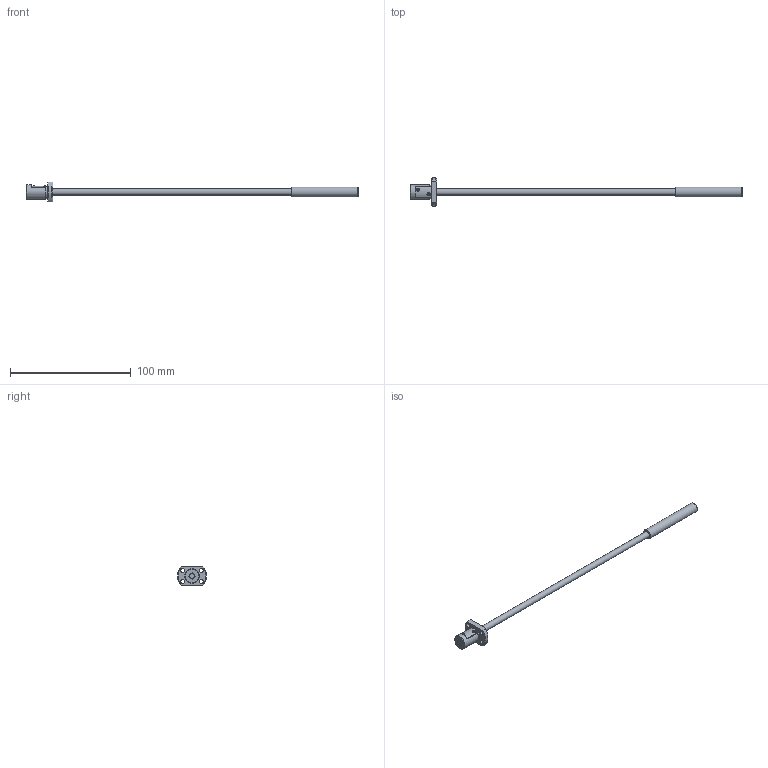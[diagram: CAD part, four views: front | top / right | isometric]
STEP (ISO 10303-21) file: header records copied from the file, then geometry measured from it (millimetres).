
FILE_DESCRIPTION( ( 'STEP AP203' ), '1' );
FILE_NAME( 'e:/temp/worker_94/temp/exporttempdir_5292_1289_nfZ3Y/format_0/SRT0504-216R275C7A0X(0None).stp', '2021-10-19T05:25:22', ( 'License CC BY-ND 4.0' ), ( 'CADENAS' ), ' ', 'PARTsolutions', ' ' );
FILE_SCHEMA( ( 'CONFIG_CONTROL_DESIGN' ) );
Length unit declared in the file: millimetre
Products named in the file (3): SRT0504-216R275C7A0X(0None); _SRT0504-216R275ACt7NoneShaft; _SRT0504Nut
Assembly tree (2 placements, depth 2):
  SRT0504-216R275C7A0X(0None)
    _SRT0504-216R275ACt7NoneShaft
    _SRT0504Nut
Bounding box: 275 x 23.92 x 16 mm (x, y, z)
Volume: 9953.2 mm3; surface area: 7041.9 mm2
Topology: 2 solids, 2 shells, 48 faces, 120 edges, 80 vertices
Faces by surface type: plane 23, cylinder 14, cone 11
Full cylindrical faces by diameter (mm): 1 x2, 3.4 x4, 5 x2, 8.2 x1, 11.5 x1, 12 x1
Entity records: 1486 total; most frequent: CARTESIAN_POINT 345, DIRECTION 220, ORIENTED_EDGE 182, AXIS2_PLACEMENT_3D 96, EDGE_CURVE 91, EDGE_LOOP 80, VERTEX_POINT 69, FACE_OUTER_BOUND 59
